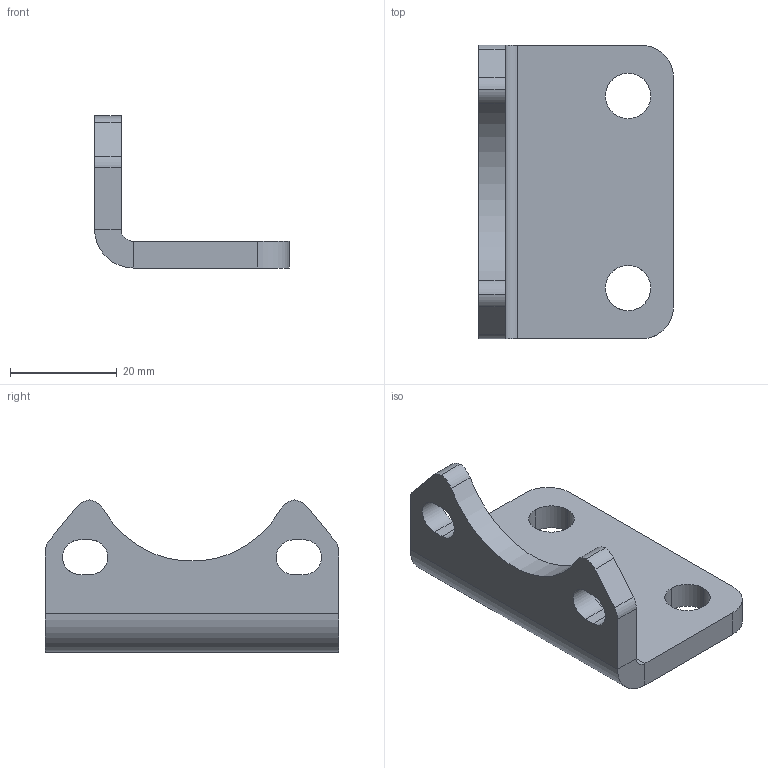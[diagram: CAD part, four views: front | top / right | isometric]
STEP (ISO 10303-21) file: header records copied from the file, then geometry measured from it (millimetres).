
FILE_DESCRIPTION(('CATIA V5 STEP Exchange'),'2;1');
FILE_NAME('D:\stp file for catalog\BAST-LB\LB 40.stp','2018-06-13T05:24:35+00:00',('none'),('none'),'CATIA Version 5-6 Release 2016','CATIA V5 STEP AP203','none');
FILE_SCHEMA(('CONFIG_CONTROL_DESIGN'));
Length unit declared in the file: millimetre
Products named in the file (1): LB-40-00
Bounding box: 36.5 x 55 x 28.48 mm (x, y, z)
Volume: 13072.2 mm3; surface area: 6838 mm2
Topology: 1 solids, 1 shells, 40 faces, 106 edges, 68 vertices
Faces by surface type: cylinder 23, plane 17
Entity records: 1273 total; most frequent: CARTESIAN_POINT 249, ORIENTED_EDGE 212, DIRECTION 174, EDGE_CURVE 106, AXIS2_PLACEMENT_3D 79, VERTEX_POINT 68, VECTOR 60, LINE 60
